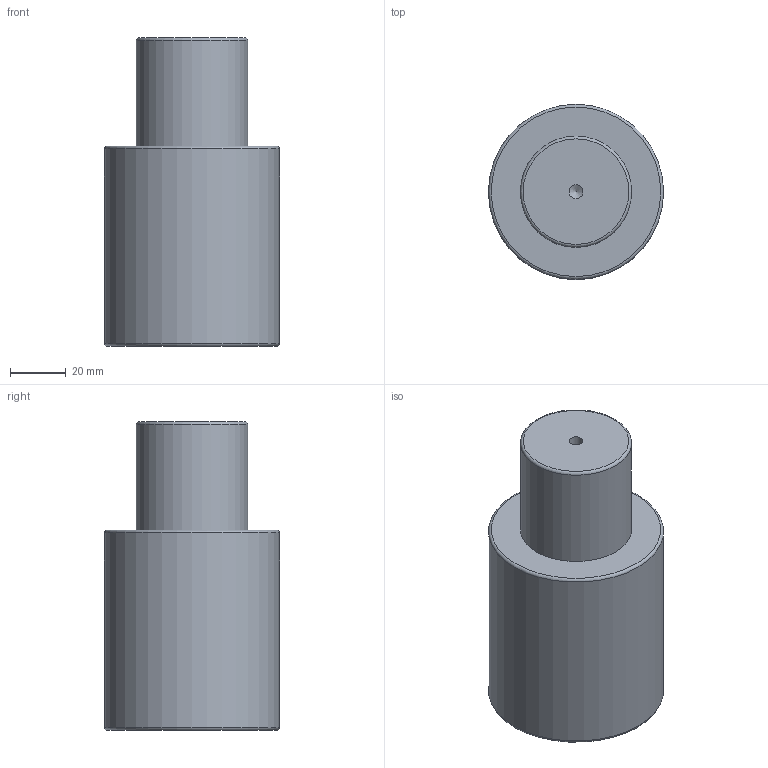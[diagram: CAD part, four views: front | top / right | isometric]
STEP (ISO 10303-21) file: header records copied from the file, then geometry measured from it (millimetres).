
FILE_DESCRIPTION(/* description */ (''),/* implementation_level */ '2;1');
FILE_NAME(/* name */ 'NV5-SMLX.63x38.stp',/* time_stamp */ '2018-08-31T16:08:31+02:00',/* author */ (''),/* organization */ (''),/* preprocessor_version */ 'ST-DEVELOPER v16',/* originating_system */ 'SIEMENS PLM Software NX 10.0',/* authorisation */ '');
FILE_SCHEMA (('AUTOMOTIVE_DESIGN { 1 0 10303 214 3 1 1 1 }'));
Length unit declared in the file: millimetre
Products named in the file (1): NV5-SMLX.63x38
Bounding box: 63 x 63 x 111 mm (x, y, z)
Volume: 271930.5 mm3; surface area: 25880.1 mm2
Topology: 1 solids, 1 shells, 12 faces, 24 edges, 15 vertices
Faces by surface type: cylinder 4, torus 3, plane 3, cone 2
Full cylindrical faces by diameter (mm): 5 x1, 8.5 x1, 40 x1, 63 x1
Entity records: 266 total; most frequent: DIRECTION 48, CARTESIAN_POINT 37, FACE_BOUND 24, AXIS2_PLACEMENT_3D 24, EDGE_LOOP 22, ORIENTED_EDGE 22, VERTEX_POINT 13, ADVANCED_FACE 12
